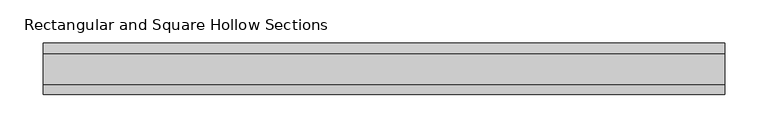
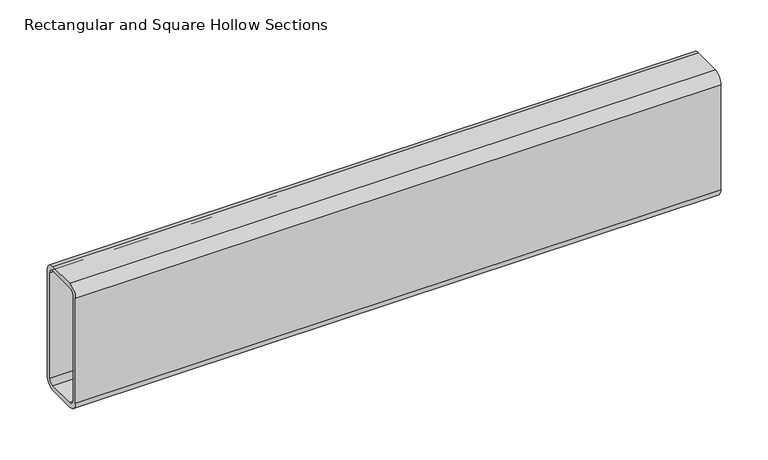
"""IFC4 building model written with IfcOpenShell, lengths in millimetres: beam geometry, Rectangular and Square Hollow Sections : TREC160x60x6."""

import ifcopenshell
import ifcopenshell.guid

model = None  # the IFC model being written
_history = None  # IfcOwnerHistory: only IFC2X3 demands one
_inside = {}  # id of a spatial element -> (the spatial element, [elements in it])
_under = {}  # id of a project, library or spatial element -> (it, [spatial elements below it])
_declared = {}  # id of a project -> (the project, [libraries it declares])
_typed = {}  # id of a type object -> (the type object, [elements of that type])
_made_of = {}  # id of a material, layer set ... -> (it, [elements and type objects made of it])


def new_model(schema):
    """Start an empty IFC model of exactly this schema.

    Asked for "IFC4X3", IfcOpenShell would pick the latest addendum, in which some entities
    have other attributes; the version numbers below select the first issue.
    IFC2X3 requires an IfcOwnerHistory on every rooted entity: one is made here for all.
    """
    global model, _history
    if schema == "IFC4X3":
        model = ifcopenshell.file(schema_version=(4, 3, 0, 0))
    else:
        model = ifcopenshell.file(schema=schema)
    _inside.clear()
    _under.clear()
    _declared.clear()
    _typed.clear()
    _made_of.clear()
    _history = None
    if model.schema == "IFC2X3":
        org = make("IfcOrganization", Name="unknown")
        user = make(
            "IfcPersonAndOrganization",
            ThePerson=make("IfcPerson", FamilyName="unknown"),
            TheOrganization=org,
        )
        app = make(
            "IfcApplication",
            ApplicationDeveloper=org,
            Version="unknown",
            ApplicationFullName="unknown",
            ApplicationIdentifier="unknown",
        )
        _history = make(
            "IfcOwnerHistory",
            OwningUser=user,
            OwningApplication=app,
            ChangeAction="ADDED",
            CreationDate=0,
        )
    return model


def make(cls, **values):
    """One entity of the class cls with the attributes given. An attribute that is None is left unset."""
    return model.create_entity(
        cls, **{name: value for name, value in values.items() if value is not None}
    )


def rooted(cls, **values):
    """An entity with a GlobalId (a new one), such as an element, a storey or a relation."""
    return make(cls, GlobalId=ifcopenshell.guid.new(), OwnerHistory=_history, **values)


def si_unit(unit_type, name, prefix=None):
    """IfcSIUnit, for example si_unit("LENGTHUNIT", "METRE", prefix="MILLI")."""
    return make("IfcSIUnit", UnitType=unit_type, Prefix=prefix, Name=name)


def assignment(units):
    """IfcUnitAssignment: the units of a project."""
    return None if units is None else make("IfcUnitAssignment", Units=units)


def point(xyz):
    """IfcCartesianPoint."""
    return None if xyz is None else make("IfcCartesianPoint", Coordinates=xyz)


def direction(xyz):
    """IfcDirection."""
    return None if xyz is None else make("IfcDirection", DirectionRatios=xyz)


def frame(location, z_axis=None, x_axis=None):
    """IfcAxis2Placement3D, a coordinate frame: its origin and axes. An axis left out is left unset."""
    return make(
        "IfcAxis2Placement3D",
        Location=point(location),
        Axis=direction(z_axis),
        RefDirection=direction(x_axis),
    )


def frame_2d(location, x_axis=None):
    """IfcAxis2Placement2D, a coordinate frame in the plane: its origin and x axis."""
    return make(
        "IfcAxis2Placement2D", Location=point(location), RefDirection=direction(x_axis)
    )


def origin():
    """The frame at (0, 0, 0) with its axes left unset."""
    return frame((0.0, 0.0, 0.0))


def place(relative_to, where):
    """IfcLocalPlacement: puts the frame where relative to a parent placement (None: the world)."""
    return make(
        "IfcLocalPlacement", PlacementRelTo=relative_to, RelativePlacement=where
    )


def context(
    kind, dimensions, precision=None, world=None, true_north=None, identifier=None
):
    """IfcGeometricRepresentationContext, for example the 3D "Model" context."""
    return make(
        "IfcGeometricRepresentationContext",
        ContextIdentifier=identifier,
        ContextType=kind,
        CoordinateSpaceDimension=dimensions,
        Precision=precision,
        WorldCoordinateSystem=world,
        TrueNorth=true_north,
    )


def project(units=None, contexts=None):
    """IfcProject with its units and contexts."""
    return rooted(
        "IfcProject",
        Name="project",
        RepresentationContexts=contexts,
        UnitsInContext=assignment(units),
    )


def spatial(cls, under=None, at=None, **own):
    """A site, building, storey or space (cls), placed at a placement, below another one or the project."""
    s = rooted(cls, ObjectPlacement=at, **own)
    if under is not None:
        _under.setdefault(under.id(), (under, []))[1].append(s)
    return s


def polyline(points):
    """IfcPolyline through the points."""
    return make("IfcPolyline", Points=[point(p) for p in points])


def circle_curve(where, radius):
    """IfcCircle in the frame where."""
    return make("IfcCircle", Position=where, Radius=radius)


def trimmed(basis, trim1, trim2, sense, master):
    """IfcTrimmedCurve: the piece of a basis curve between two trims."""
    return make(
        "IfcTrimmedCurve",
        BasisCurve=basis,
        Trim1=trim1,
        Trim2=trim2,
        SenseAgreement=sense,
        MasterRepresentation=master,
    )


def segment(curve, same_sense, transition):
    """IfcCompositeCurveSegment."""
    return make(
        "IfcCompositeCurveSegment",
        Transition=transition,
        SameSense=same_sense,
        ParentCurve=curve,
    )


def composite_curve(segments, self_intersect=None):
    """IfcCompositeCurve: segments joined end to end."""
    return make("IfcCompositeCurve", Segments=segments, SelfIntersect=self_intersect)


def outline(outer, holes=None, kind="AREA"):
    """IfcArbitraryClosedProfileDef: a profile drawn as a closed curve; with holes, ...WithVoids."""
    if holes is None:
        return make("IfcArbitraryClosedProfileDef", ProfileType=kind, OuterCurve=outer)
    return make(
        "IfcArbitraryProfileDefWithVoids",
        ProfileType=kind,
        OuterCurve=outer,
        InnerCurves=holes,
    )


def extrude(swept, where, along, depth):
    """IfcExtrudedAreaSolid: the profile swept, set in the frame where, extruded along a direction by depth."""
    return make(
        "IfcExtrudedAreaSolid",
        SweptArea=swept,
        Position=where,
        ExtrudedDirection=direction(along),
        Depth=depth,
    )


def shape(context_of_items, identifier, shape_type, items):
    """IfcShapeRepresentation: the items that make up one representation, for example the "Body"."""
    return make(
        "IfcShapeRepresentation",
        ContextOfItems=context_of_items,
        RepresentationIdentifier=identifier,
        RepresentationType=shape_type,
        Items=items,
    )


def source(mapping_origin, context_of_items, identifier, shape_type, items):
    """IfcRepresentationMap: a shape defined once, which mapped items show again and again."""
    return make(
        "IfcRepresentationMap",
        MappingOrigin=mapping_origin,
        MappedRepresentation=shape(context_of_items, identifier, shape_type, items),
    )


def transform(
    local_origin,
    x_axis=None,
    y_axis=None,
    z_axis=None,
    scale=None,
    scale2=None,
    scale3=None,
    uniform=True,
):
    """IfcCartesianTransformationOperator3D, or its non-uniform kind. x_axis, y_axis, z_axis: its Axis1, 2, 3."""
    if uniform:
        return make(
            "IfcCartesianTransformationOperator3D",
            Axis1=direction(x_axis),
            Axis2=direction(y_axis),
            LocalOrigin=point(local_origin),
            Scale=scale,
            Axis3=direction(z_axis),
        )
    return make(
        "IfcCartesianTransformationOperator3DnonUniform",
        Axis1=direction(x_axis),
        Axis2=direction(y_axis),
        LocalOrigin=point(local_origin),
        Scale=scale,
        Axis3=direction(z_axis),
        Scale2=scale2,
        Scale3=scale3,
    )


def mapped(mapping_source, mapping_target):
    """IfcMappedItem: shows the shape of a source again, moved by a transform."""
    return make(
        "IfcMappedItem", MappingSource=mapping_source, MappingTarget=mapping_target
    )


def made_of(thing, what):
    """Note that an element or type object is made of a material, layer set ...; save() writes the relation."""
    if what is not None:
        _made_of.setdefault(what.id(), (what, []))[1].append(thing)
    return thing


def element(
    cls,
    number,
    at=None,
    inside=None,
    cuts=None,
    type_object=None,
    material=None,
    context=None,
    identifier="Body",
    shape_type=None,
    held_by="IfcProductDefinitionShape",
    body=None,
    shapes=None,
    **own,
):
    """One element of the class cls, such as IfcWall. Its Tag is "e" and its number.

    at: its placement. inside: the storey or other place that contains it. cuts: it is an
    opening in that element (IfcRelVoidsElement). A single representation is given by context,
    identifier, shape_type and body (its items); several are given by shapes. held_by: the class
    of the entity that holds the representations. save() writes the other relations.
    """
    e = rooted(cls, Tag="e%d" % number, ObjectPlacement=at, **own)
    if body is not None:
        shapes = [shape(context, identifier, shape_type, body)]
    if shapes is not None:
        e.Representation = make(held_by, Representations=shapes)
    if inside is not None:
        _inside.setdefault(inside.id(), (inside, []))[1].append(e)
    if cuts is not None:
        rooted(
            "IfcRelVoidsElement", RelatingBuildingElement=cuts, RelatedOpeningElement=e
        )
    if type_object is not None:
        _typed.setdefault(type_object.id(), (type_object, []))[1].append(e)
    return made_of(e, material)


def aggregate(whole, parts):
    """IfcRelAggregates: a whole, such as a stair, and the parts it consists of."""
    return rooted("IfcRelAggregates", RelatingObject=whole, RelatedObjects=parts)


def save(model, path):
    """Write the relations noted so far, then the file.

    IfcRelAggregates (storeys below a building ...), IfcRelContainedInSpatialStructure (elements
    in a storey), IfcRelDefinesByType, IfcRelAssociatesMaterial and IfcRelDeclares: one each for
    every whole, place, type object, material and project.
    """
    for whole, parts in _under.values():
        aggregate(whole, parts)
    for where, things in _inside.values():
        rooted(
            "IfcRelContainedInSpatialStructure",
            RelatedElements=things,
            RelatingStructure=where,
        )
    for kind, things in _typed.values():
        rooted("IfcRelDefinesByType", RelatedObjects=things, RelatingType=kind)
    for what, things in _made_of.values():
        rooted("IfcRelAssociatesMaterial", RelatedObjects=things, RelatingMaterial=what)
    for by, libraries in _declared.values():
        rooted("IfcRelDeclares", RelatingContext=by, RelatedDefinitions=libraries)
    model.write(path)


def rectangular_and_square_hollow_sections_64a36e80(model_context):
    return source(origin(), model_context, "Body", "SweptSolid", [
        extrude(outline(composite_curve([segment(polyline([(30.0, 68.0), (30.0, -68.0)]), True, "CONTINUOUS"), segment(trimmed(circle_curve(frame_2d((18.0, -68.0)), 12.0), [point((30.0, -68.0))], [point((18.0, -80.0))], False, "CARTESIAN"), True, "CONTINUOUS"), segment(polyline([(18.0, -80.0), (-18.0, -80.0)]), True, "CONTINUOUS"), segment(trimmed(circle_curve(frame_2d((-18.0, -68.0)), 12.0), [point((-18.0, -80.0))], [point((-30.0, -68.0))], False, "CARTESIAN"), True, "CONTINUOUS"), segment(polyline([(-30.0, -68.0), (-30.0, 68.0)]), True, "CONTINUOUS"), segment(trimmed(circle_curve(frame_2d((-18.0, 68.0)), 12.0), [point((-30.0, 68.0))], [point((-18.0, 80.0))], False, "CARTESIAN"), True, "CONTINUOUS"), segment(polyline([(-18.0, 80.0), (18.0, 80.0)]), True, "CONTINUOUS"), segment(trimmed(circle_curve(frame_2d((18.0, 68.0)), 12.0), [point((18.0, 80.0))], [point((30.0, 68.0))], False, "CARTESIAN"), True, "CONTINUOUS")], self_intersect=False), holes=[composite_curve([segment(trimmed(circle_curve(frame_2d((-18.0, 68.0)), 6.0), [point((-18.0, 74.0))], [point((-24.0, 68.0))], True, "CARTESIAN"), True, "CONTINUOUS"), segment(polyline([(-24.0, 68.0), (-24.0, -68.0)]), True, "CONTINUOUS"), segment(trimmed(circle_curve(frame_2d((-18.0, -68.0)), 6.0), [point((-24.0, -68.0))], [point((-18.0, -74.0))], True, "CARTESIAN"), True, "CONTINUOUS"), segment(polyline([(-18.0, -74.0), (18.0, -74.0)]), True, "CONTINUOUS"), segment(trimmed(circle_curve(frame_2d((18.0, -68.0)), 6.0), [point((18.0, -74.0))], [point((24.0, -68.0))], True, "CARTESIAN"), True, "CONTINUOUS"), segment(polyline([(24.0, -68.0), (24.0, 68.0)]), True, "CONTINUOUS"), segment(trimmed(circle_curve(frame_2d((18.0, 68.0)), 6.0), [point((24.0, 68.0))], [point((18.0, 74.0))], True, "CARTESIAN"), True, "CONTINUOUS"), segment(polyline([(18.0, 74.0), (-18.0, 74.0)]), True, "CONTINUOUS")], self_intersect=False)]), frame((-401.5, 0.0, 0.0), z_axis=(1.0, 0.0, 0.0), x_axis=(0.0, 1.0, 0.0)), (0.0, 0.0, 1.0), 790.0),
    ])


if __name__ == "__main__":
    model = new_model("IFC4")
    model_context = context("Model", 3, world=origin())
    ifc_project = project(units=[si_unit("LENGTHUNIT", "METRE", prefix="MILLI")], contexts=[model_context])
    site = spatial("IfcSite", under=ifc_project)
    building = spatial("IfcBuilding", under=site)
    placement = place(None, origin())
    rectangular_and_square_hollow_sections_shape = rectangular_and_square_hollow_sections_64a36e80(model_context)
    element("IfcBeam", 1, ObjectType="Rectangular and Square Hollow Sections : TREC160x60x6", at=placement, inside=building, context=model_context, shape_type="MappedRepresentation", body=[
        mapped(rectangular_and_square_hollow_sections_shape, transform((0.0, 0.0, 0.0), x_axis=(1.0, 0.0, 0.0), y_axis=(0.0, 1.0, 0.0), z_axis=(0.0, 0.0, 1.0))),
    ])
    save(model, "model.ifc")
